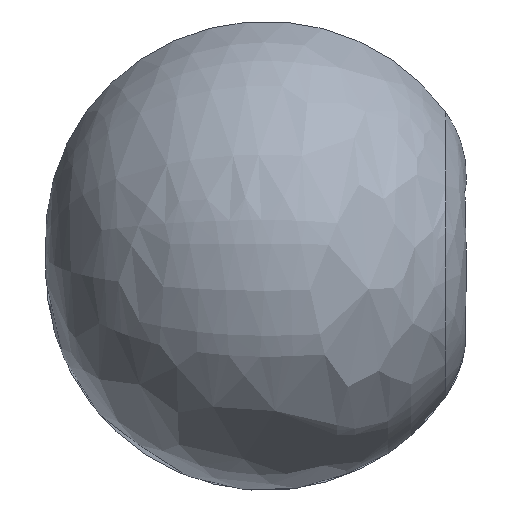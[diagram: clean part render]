
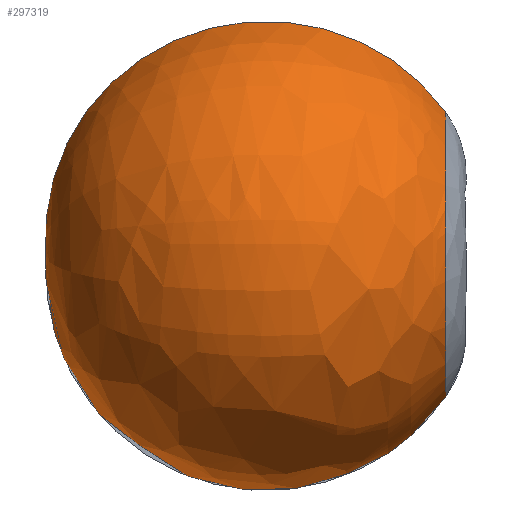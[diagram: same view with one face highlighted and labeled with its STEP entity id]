
A CAD part, left-side view. The second image highlights one B-rep face of the part: STEP entity #297319.
In plain terms, the highlighted free-form (B-spline) face has degree [3, 3] with [7, 4] control points.
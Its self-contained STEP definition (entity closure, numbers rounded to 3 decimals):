
#297055=CARTESIAN_POINT('',(33.518,537.,
145.181));
#297056=DIRECTION('',(-0.974,0.,0.225));
#297057=DIRECTION('',(0.129,-0.819,0.559));
#297058=AXIS2_PLACEMENT_3D('',#297055,#297056,#297057);
#297099=CARTESIAN_POINT('',(-33.518,537.,
145.181));
#297100=DIRECTION('',(-0.974,0.,-0.225));
#297101=DIRECTION('',(-0.129,-0.819,0.559));
#297102=AXIS2_PLACEMENT_3D('',#297099,#297100,#297101);
#297109=CARTESIAN_POINT('',(0.,-980.618,0.));
#297110=DIRECTION('',(0.,1.,0.));
#297111=DIRECTION('',(0.225,0.,0.974));
#297112=AXIS2_PLACEMENT_3D('',#297109,#297110,#297111);
#297122=CARTESIAN_POINT('',(272.561,-980.618,
1180.593));
#297123=VERTEX_POINT('',#297122);
#297124=CARTESIAN_POINT('',(0.,2383.668,0.));
#297125=VERTEX_POINT('',#297124);
#297132=CARTESIAN_POINT('',(-272.561,-980.618,
1180.593));
#297133=VERTEX_POINT('',#297132);
#297285=CARTESIAN_POINT('',(0.,2383.668,
0.));
#297286=CARTESIAN_POINT('',(-268.056,2580.144,
2420.276));
#297287=CARTESIAN_POINT('',(-352.543,260.847,
3183.111));
#297288=CARTESIAN_POINT('',(-124.499,-1034.02,
1124.104));
#297289=CARTESIAN_POINT('',(0.,2383.668,
0.));
#297290=CARTESIAN_POINT('',(-4621.307,2580.144,
1938.135));
#297291=CARTESIAN_POINT('',(-6077.874,260.847,
2549.006));
#297292=CARTESIAN_POINT('',(-2146.379,-1034.02,
900.172));
#297293=CARTESIAN_POINT('',(0.,2383.668,
0.));
#297294=CARTESIAN_POINT('',(-4379.869,2580.144,
-2435.075));
#297295=CARTESIAN_POINT('',(-5760.339,260.847,
-3202.574));
#297296=CARTESIAN_POINT('',(-2034.242,-1034.02,
-1130.977));
#297297=CARTESIAN_POINT('',(0.,2383.668,0.));
#297298=CARTESIAN_POINT('',(0.,2580.144,
-2435.075));
#297299=CARTESIAN_POINT('',(0.,260.847,
-3202.574));
#297300=CARTESIAN_POINT('',(0.,-1034.02,
-1130.977));
#297301=CARTESIAN_POINT('',(0.,2383.668,
0.));
#297302=CARTESIAN_POINT('',(4379.869,2580.144,
-2435.075));
#297303=CARTESIAN_POINT('',(5760.339,260.847,
-3202.574));
#297304=CARTESIAN_POINT('',(2034.242,-1034.02,
-1130.977));
#297305=CARTESIAN_POINT('',(0.,2383.668,
0.));
#297306=CARTESIAN_POINT('',(4621.307,2580.144,
1938.135));
#297307=CARTESIAN_POINT('',(6077.874,260.847,
2549.006));
#297308=CARTESIAN_POINT('',(2146.379,-1034.02,
900.172));
#297309=CARTESIAN_POINT('',(0.,2383.668,
0.));
#297310=CARTESIAN_POINT('',(268.056,2580.144,
2420.276));
#297311=CARTESIAN_POINT('',(352.543,260.847,
3183.111));
#297312=CARTESIAN_POINT('',(124.499,-1034.02,
1124.104));
#297313=(BOUNDED_SURFACE()B_SPLINE_SURFACE(3,3,((#297285,#297286,#297287,
#297288),(#297289,#297290,#297291,#297292),(#297293,#297294,#297295,#297296),(
#297297,#297298,#297299,#297300),(#297301,#297302,#297303,#297304),(#297305,
#297306,#297307,#297308),(#297309,#297310,#297311,#297312)),.UNSPECIFIED.,.F.,
.F.,.F.)B_SPLINE_SURFACE_WITH_KNOTS((4,3,4),(4,4),(0.,1.,2.),(0.,1.),
.UNSPECIFIED.)GEOMETRIC_REPRESENTATION_ITEM()RATIONAL_B_SPLINE_SURFACE(((
3.065,1.506,1.506,3.065),(
1.134,0.557,0.557,1.134),(
1.134,0.557,0.557,1.134),(
3.065,1.506,1.506,3.065),(
1.134,0.557,0.557,1.134),(
1.134,0.557,0.557,1.134),(
3.065,1.506,1.506,3.065)))REPRESENTATION_ITEM('')SURFACE());
#297314=ORIENTED_EDGE('',*,*,#297145,.T.);
#297315=ORIENTED_EDGE('',*,*,#297241,.F.);
#297316=ORIENTED_EDGE('',*,*,#297279,.F.);
#297317=EDGE_LOOP('',(#297314,#297315,#297316));
#297318=FACE_OUTER_BOUND('',#297317,.F.);
#297319=ADVANCED_FACE('',(#297318),#297313,.T.);
#297059=CIRCLE('',#297058,1852.669);
#297103=CIRCLE('',#297102,1852.669);
#297113=CIRCLE('',#297112,1211.647);
#297145=EDGE_CURVE('',#297123,#297125,#297059,.T.);
#297241=EDGE_CURVE('',#297133,#297125,#297103,.T.);
#297279=EDGE_CURVE('',#297123,#297133,#297113,.T.);
